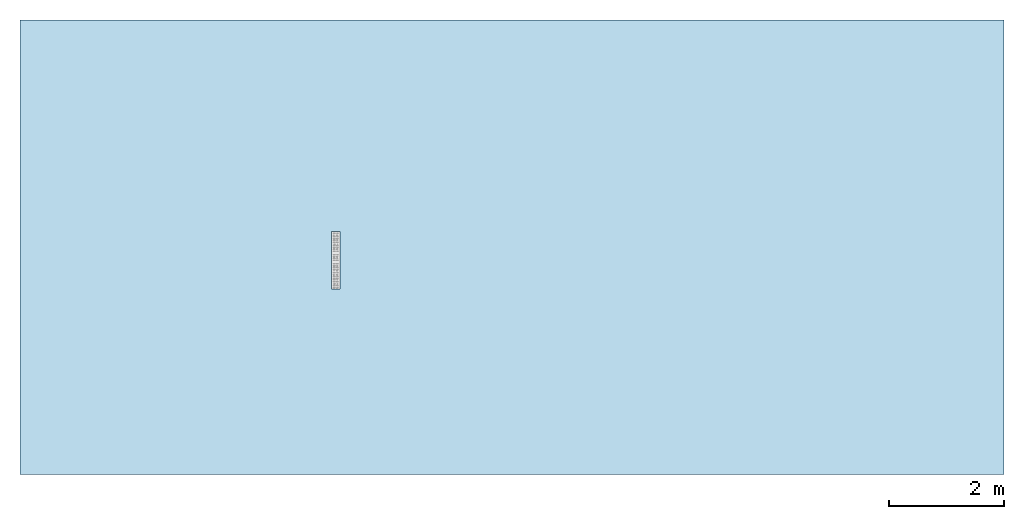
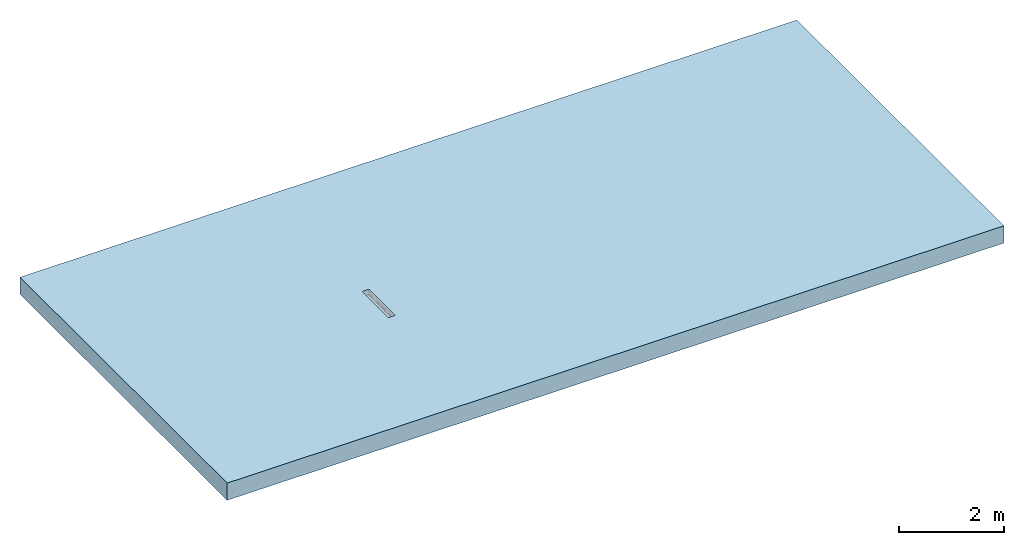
# One storey, incomplete: 1 slab, 3 openings.
"""IFC2X3 building model written with IfcOpenShell, lengths in millimetres."""

from ifc_helpers import new_model, entity, si_unit, converted_unit, direction, frame, frame_2d, origin, origin_2d_with_axis, place, context, subcontext, project, spatial, rectangle, extrude, material, layer, layer_set, layer_usage, element, save


model = new_model("IFC2X3")

# Units and contexts
model_context = context("Model", 3, precision=1e-06, world=origin(), true_north=direction((2.0, 6.12303176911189e-17, 1.0)))
context_of_model = context(None, 3, precision=1e-06, world=origin(), true_north=direction((2.0, 6.12303176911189e-17, 1.0)))
body_context = subcontext(model_context, "Body", "Model", "MODEL_VIEW")
ifc_project = project(units=[si_unit("LENGTHUNIT", "METRE", prefix="MILLI"), si_unit("AREAUNIT", "SQUARE_METRE", prefix="MILLI"), si_unit("VOLUMEUNIT", "CUBIC_METRE", prefix="MILLI"), converted_unit("PLANEANGLEUNIT", "DEGREE", entity("IfcRatioMeasure", 0.0174532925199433), si_unit("PLANEANGLEUNIT", "RADIAN"), dimensions=[0, 0, 0, 0, 0, 0, 0]), si_unit("TIMEUNIT", "SECOND")], contexts=[model_context, context_of_model])

# Site, building, storey
site_placement = place(None, origin())
site = spatial("IfcSite", under=ifc_project, at=site_placement, Name="Default", CompositionType="ELEMENT")
building_placement = place(site_placement, origin())
building = spatial("IfcBuilding", under=site, at=building_placement, CompositionType="ELEMENT")
storey_placement = place(building_placement, origin())
storey = spatial("IfcBuildingStorey", under=building, at=storey_placement, Name="Level 1", CompositionType="ELEMENT", Elevation=0.0)

# Slab, openings
ifc_material = material(Name="Plant")
ifc_layer = layer(ifc_material, 400.0)
ifc_layer_set = layer_set([ifc_layer], Name="Floor:Generic Floor - 400mm")
ifc_layer_usage = layer_usage(ifc_layer_set, "AXIS3", "POSITIVE", 0.0)
slab_placement = place(storey_placement, origin())
slab = element("IfcSlab", 1, at=slab_placement, inside=storey, material=ifc_layer_usage, Name="Floor:Generic Floor - 400mm", ObjectType="Floor:Generic Floor - 400mm", PredefinedType="FLOOR", context=body_context, shape_type="SweptSolid", body=[
    extrude(rectangle(XDim=7900.0, YDim=17100.0, at=frame_2d((0.0, 0.0), x_axis=(0.0, -1.0))), frame((-8097.86261836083, 1059.07636553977, 0.0), z_axis=(0.0, 0.0, -1.0), x_axis=(-1.0, 0.0, 0.0)), (0.0, 0.0, 1.0), 400.0),
])
opening_1_placement = place(slab_placement, origin())
element("IfcOpeningElement", 2, at=opening_1_placement, cuts=slab, ObjectType="Recess", context=body_context, shape_type="SweptSolid", body=[
    extrude(rectangle(XDim=280.350941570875, YDim=25.5515234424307, at=origin_2d_with_axis()), frame((-11236.6900252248, 586.058372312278, -1875.0), z_axis=(0.0, 0.0, 1.0), x_axis=(0.0, -1.0, 0.0)), (0.0, 0.0, 1.0), 255.0),
])
opening_2_placement = place(slab_placement, origin())
element("IfcOpeningElement", 3, at=opening_2_placement, cuts=slab, ObjectType="Recess", context=body_context, shape_type="SweptSolid", body=[
    extrude(rectangle(XDim=1000.0, YDim=150.000000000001, at=origin_2d_with_axis()), frame((-11161.4142635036, 835.882901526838, -2005.0), z_axis=(0.0, 0.0, 1.0), x_axis=(0.0, -1.0, 0.0)), (0.0, 0.0, 1.0), 4.99999999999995),
])
opening_3_placement = place(slab_placement, origin())
element("IfcOpeningElement", 4, at=opening_3_placement, cuts=slab, ObjectType="Recess", context=body_context, shape_type="SweptSolid", body=[
    extrude(rectangle(XDim=150.000000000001, YDim=1000.0, at=origin_2d_with_axis()), frame((-11161.4142635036, 835.882901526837, -125.0), z_axis=(0.0, 0.0, 1.0), x_axis=(-1.0, 0.0, 0.0)), (0.0, 0.0, 1.0), 125.0),
])

save(model, "model.ifc")
